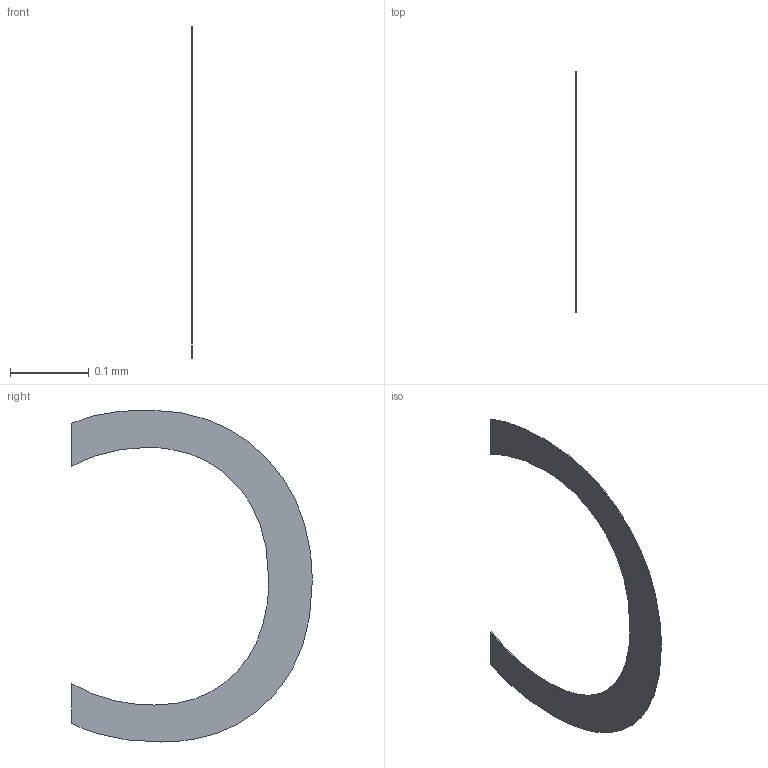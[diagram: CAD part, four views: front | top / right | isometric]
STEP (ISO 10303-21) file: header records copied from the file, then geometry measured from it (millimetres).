
FILE_DESCRIPTION(/* description */ ('STEP AP242 Edition 2','CAx-IF Rec.Pracs.---Representation and Presentation of Product Manufacturing Information (PMI)---4.0---2014-10-13','CAx-IF Rec.Pracs.---3D Tessellated Geometry---0.4---2014-09-14','2;1','CAx-IF Rec.Pracs.---User Defined Attributes---1.5---2016-08-15'),/* implementation_level */ '2;1');
FILE_NAME(/* name */ 'Assembly 1 - CONN-TH_HFBR-1521Z~CONN-TH_HFBR-1521Z~nxQB (7)',/* time_stamp */ '2026-04-02T09:55:12Z',/* author */ (''),/* organization */ (''),/* preprocessor_version */ 'ST-DEVELOPER v20',/* originating_system */ 'ONSHAPE BY PTC INC, 1.212',/* authorisation */ ' ');
FILE_SCHEMA (('AP242_MANAGED_MODEL_BASED_3D_ENGINEERING_MIM_LF { 1 0 10303 442 3 1 4 }'));
Length unit declared in the file: metre
Products named in the file (1): CONN-TH_HFBR-1521Z~CONN-TH_HFBR-1521Z~nxQB
Bounding box: 0 x 0.3 x 0.42 mm (x, y, z)
Volume: 0 mm3; surface area: 0.1 mm2
Topology: 1 solids, 1 shells, 16 faces, 42 edges, 28 vertices
Faces by surface type: bspline 12, plane 4
Entity records: 693 total; most frequent: CARTESIAN_POINT 243, ORIENTED_EDGE 84, EDGE_CURVE 42, VERTEX_POINT 28, DIRECTION 28, B_SPLINE_CURVE_WITH_KNOTS 24, LINE 18, VECTOR 18
